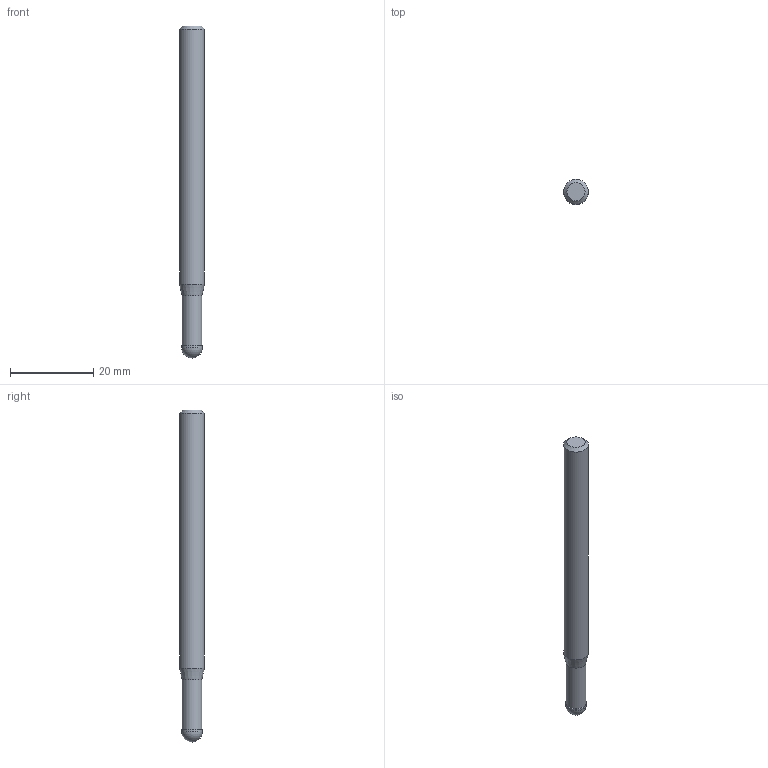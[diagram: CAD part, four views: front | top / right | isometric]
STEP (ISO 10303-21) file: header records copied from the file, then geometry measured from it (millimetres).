
FILE_DESCRIPTION((''),'2;1');
FILE_NAME('C:\Users\nsx150\AppData\Local\Temp\Mastercam 2021\LJSIDMOTM8\TEMP.step','2021-08-03T14:23:21',(''),(''),'STEP Write','Mastercam 2021 ... CNC Software, Inc.','');
FILE_SCHEMA(('AUTOMOTIVE_DESIGN'));
Length unit declared in the file: millimetre
Products named in the file (1): None
Bounding box: 6 x 6 x 80 mm (x, y, z)
Volume: 2077.1 mm3; surface area: 1505.4 mm2
Topology: 2 solids, 2 shells, 9 faces, 14 edges, 8 vertices
Faces by surface type: plane 3, cylinder 3, cone 2, sphere 1
Full cylindrical faces by diameter (mm): 4.8 x1, 5 x1, 6 x1
Entity records: 211 total; most frequent: DIRECTION 36, CARTESIAN_POINT 25, AXIS2_PLACEMENT_3D 18, ORIENTED_EDGE 14, EDGE_LOOP 14, STYLED_ITEM 12, ADVANCED_FACE 9, FACE_BOUND 8
